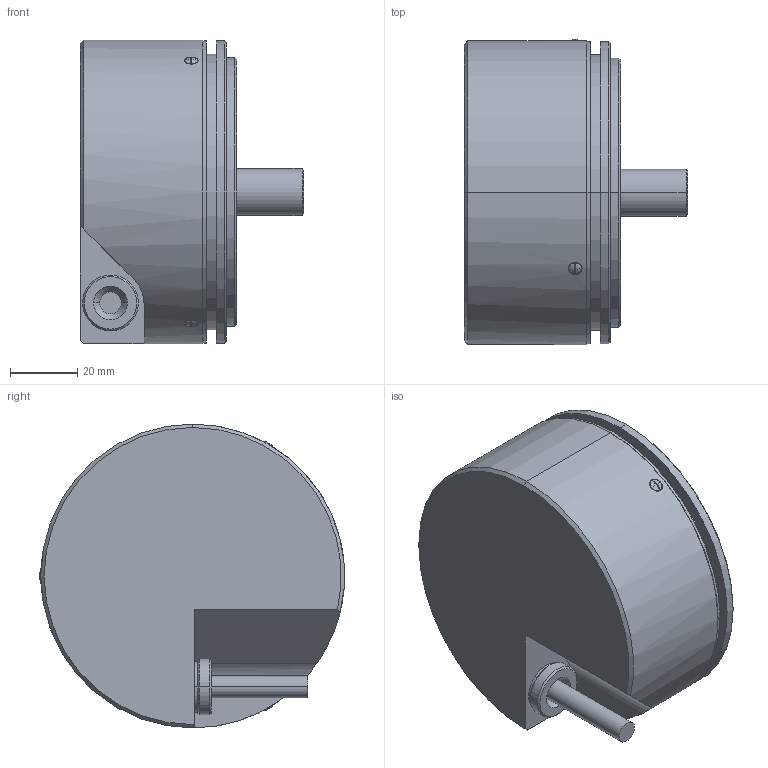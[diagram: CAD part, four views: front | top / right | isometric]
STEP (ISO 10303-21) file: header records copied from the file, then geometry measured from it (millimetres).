
FILE_DESCRIPTION (( 'STEP AP214' ), '1' );
FILE_NAME ('ﾋﾈﾐ-190ﾅ.STEP', '2017-05-23T08:53:51', ( '' ), ( '' ), 'SwSTEP 2.0', 'SolidWorks 2013', '' );
FILE_SCHEMA (( 'AUTOMOTIVE_DESIGN' ));
Length unit declared in the file: millimetre
Products named in the file (1): ﾋﾈﾐ-190ﾅ
Bounding box: 66.5 x 90.83 x 90.4 mm (x, y, z)
Surface area: 31708.8 mm2 (no closed solid volume)
Topology: 0 solids, 20 shells, 113 faces, 288 edges, 198 vertices
Faces by surface type: cylinder 35, plane 32, cone 19, sphere 12, torus 9, bspline 6
Entity records: 7284 total; most frequent: CARTESIAN_POINT 3331, DIRECTION 591, ORIENTED_EDGE 480, EDGE_CURVE 288, AXIS2_PLACEMENT_3D 253, VERTEX_POINT 198, CIRCLE 145, EDGE_LOOP 128
